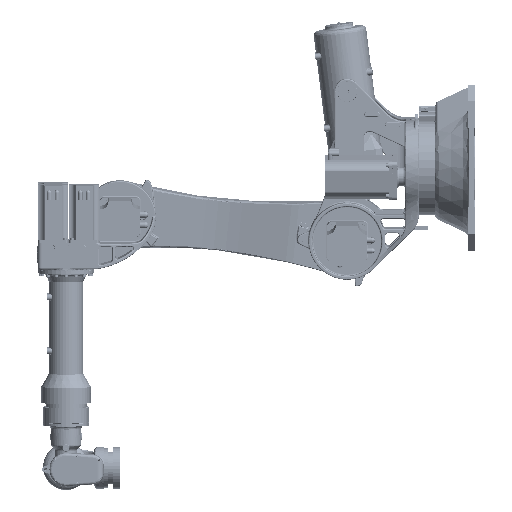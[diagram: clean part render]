
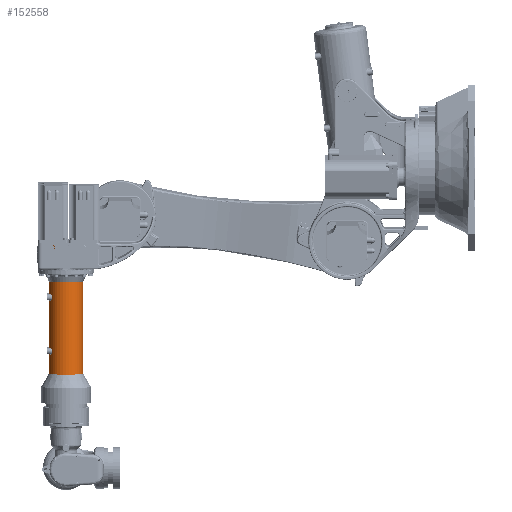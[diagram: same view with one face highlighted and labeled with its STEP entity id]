
A CAD part, left-side view. The second image highlights one B-rep face of the part: STEP entity #152558.
In plain terms, the highlighted cylindrical face has radius 82.5 mm (diameter 165 mm), a partial arc.
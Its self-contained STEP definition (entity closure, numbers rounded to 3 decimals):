
#561 = ORIENTED_EDGE ( 'NONE', *, *, #212070, .T. ) ;
#2629 = CIRCLE ( 'NONE', #239638, 82.5 ) ;
#11124 = DIRECTION ( 'NONE',  ( 0., 1., 0. ) ) ;
#14783 = LINE ( 'NONE', #137181, #33731 ) ;
#17150 = DIRECTION ( 'NONE',  ( 0., 1., 0. ) ) ;
#21443 = CARTESIAN_POINT ( 'NONE',  ( 0., 1896., -1134.5 ) ) ;
#24901 = VERTEX_POINT ( 'NONE', #90014 ) ;
#25159 = CIRCLE ( 'NONE', #72990, 82.5 ) ;
#27308 = FACE_OUTER_BOUND ( 'NONE', #290884, .T. ) ;
#33731 = VECTOR ( 'NONE', #260990, 1000. ) ;
#47854 = VERTEX_POINT ( 'NONE', #21443 ) ;
#49054 = EDGE_CURVE ( 'NONE', #132757, #146614, #25159, .T. ) ;
#72990 = AXIS2_PLACEMENT_3D ( 'NONE', #232130, #227920, #11124 ) ;
#74359 = ORIENTED_EDGE ( 'NONE', *, *, #104978, .F. ) ;
#88731 = CARTESIAN_POINT ( 'NONE',  ( 0., 1978.5, -1134.5 ) ) ;
#90014 = CARTESIAN_POINT ( 'NONE',  ( 0., 2061., -1134.5 ) ) ;
#103651 = CYLINDRICAL_SURFACE ( 'NONE', #237261, 82.5 ) ;
#104978 = EDGE_CURVE ( 'NONE', #132757, #47854, #14783, .T. ) ;
#105330 = CARTESIAN_POINT ( 'NONE',  ( 0., 2061., -479.5 ) ) ;
#132757 = VERTEX_POINT ( 'NONE', #158633 ) ;
#137181 = CARTESIAN_POINT ( 'NONE',  ( 0., 1896., -479.5 ) ) ;
#146614 = VERTEX_POINT ( 'NONE', #105330 ) ;
#152558 = ADVANCED_FACE ( 'NONE', ( #27308 ), #103651, .T. ) ;
#158633 = CARTESIAN_POINT ( 'NONE',  ( 0., 1896., -479.5 ) ) ;
#162422 = DIRECTION ( 'NONE',  ( 0., 0., 1. ) ) ;
#176061 = ORIENTED_EDGE ( 'NONE', *, *, #257670, .T. ) ;
#180728 = DIRECTION ( 'NONE',  ( 0., 0., -1. ) ) ;
#183888 = CARTESIAN_POINT ( 'NONE',  ( 0., 2061., -479.5 ) ) ;
#190359 = VECTOR ( 'NONE', #180728, 1000. ) ;
#212070 = EDGE_CURVE ( 'NONE', #24901, #47854, #2629, .T. ) ;
#216008 = DIRECTION ( 'NONE',  ( 0., 0., -1. ) ) ;
#220988 = LINE ( 'NONE', #183888, #190359 ) ;
#227920 = DIRECTION ( 'NONE',  ( 0., 0., -1. ) ) ;
#232130 = CARTESIAN_POINT ( 'NONE',  ( 0., 1978.5, -479.5 ) ) ;
#237261 = AXIS2_PLACEMENT_3D ( 'NONE', #306724, #216008, #240531 ) ;
#239638 = AXIS2_PLACEMENT_3D ( 'NONE', #88731, #162422, #17150 ) ;
#240531 = DIRECTION ( 'NONE',  ( 0., 1., 0. ) ) ;
#257670 = EDGE_CURVE ( 'NONE', #146614, #24901, #220988, .T. ) ;
#260990 = DIRECTION ( 'NONE',  ( 0., 0., -1. ) ) ;
#290884 = EDGE_LOOP ( 'NONE', ( #74359, #298227, #176061, #561 ) ) ;
#298227 = ORIENTED_EDGE ( 'NONE', *, *, #49054, .T. ) ;
#306724 = CARTESIAN_POINT ( 'NONE',  ( 0., 1978.5, -479.5 ) ) ;
